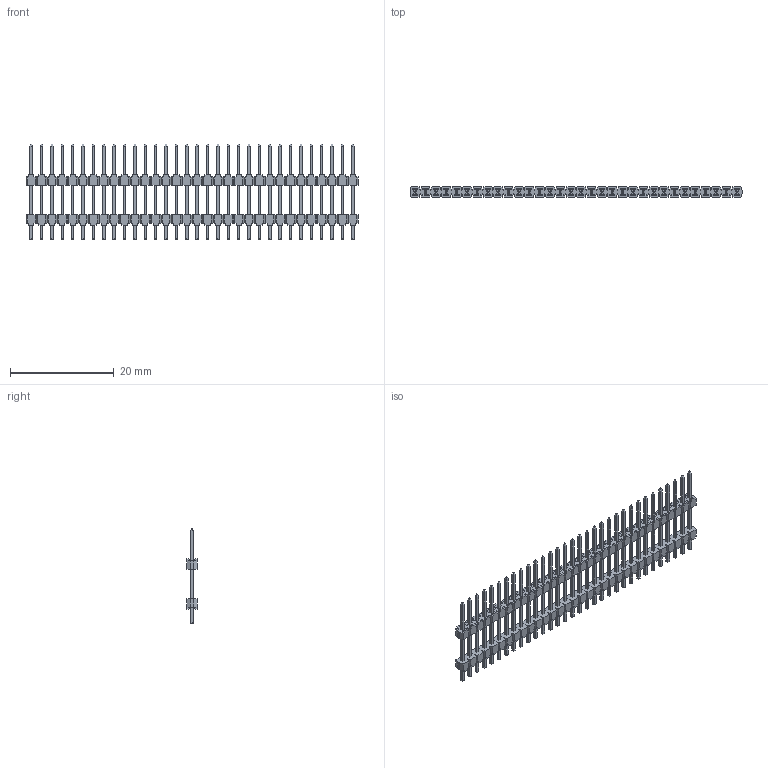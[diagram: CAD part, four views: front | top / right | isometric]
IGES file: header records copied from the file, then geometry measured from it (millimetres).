
Global section: file name: N:\GOLF_VI_2mm_UGII\9514XX_906XX06_AR\951432-9061906-AR.igs; native system: NX V3.0; preprocessor: UGS NX IGES V4.0; date: 20070314.144200; units: millimetre
Bounding box: 64 x 2 x 18.4 mm (x, y, z)
Surface area: 2141 mm2 (no closed solid volume)
Topology: 0 solids, 0 shells, 1608 faces, 8729 edges, 8729 vertices
Faces by surface type: bspline 1608
